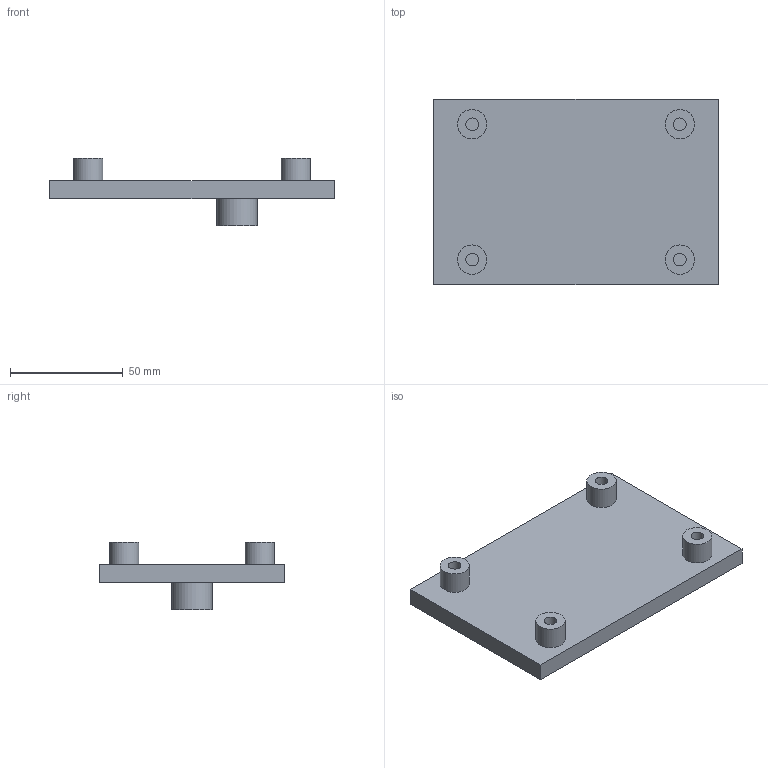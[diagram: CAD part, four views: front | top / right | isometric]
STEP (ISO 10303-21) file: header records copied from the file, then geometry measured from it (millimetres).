
FILE_DESCRIPTION(('Open CASCADE Model'),'2;1');
FILE_NAME('Open CASCADE Shape Model','2026-09-10T23:36:48',('Author'),( 'Open CASCADE'),'Open CASCADE STEP processor 7.9','Open CASCADE 7.9' ,'Unknown');
FILE_SCHEMA(('AUTOMOTIVE_DESIGN { 1 0 10303 214 1 1 1 1 }'));
Length unit declared in the file: millimetre
Products named in the file (1): Open CASCADE STEP translator 7.9 2
Bounding box: 126 x 82 x 30 mm (x, y, z)
Volume: 89763.2 mm3; surface area: 27230.7 mm2
Topology: 1 solids, 2 shells, 27 faces, 42 edges, 28 vertices
Faces by surface type: plane 17, cylinder 10
Full cylindrical faces by diameter (mm): 5.6 x4, 6.6 x1, 13 x4, 18 x1
Entity records: 1170 total; most frequent: DIRECTION 202, CARTESIAN_POINT 182, LINE 86, VECTOR 86, ORIENTED_EDGE 84, PCURVE 84, DEFINITIONAL_REPRESENTATION 84, AXIS2_PLACEMENT_3D 48
